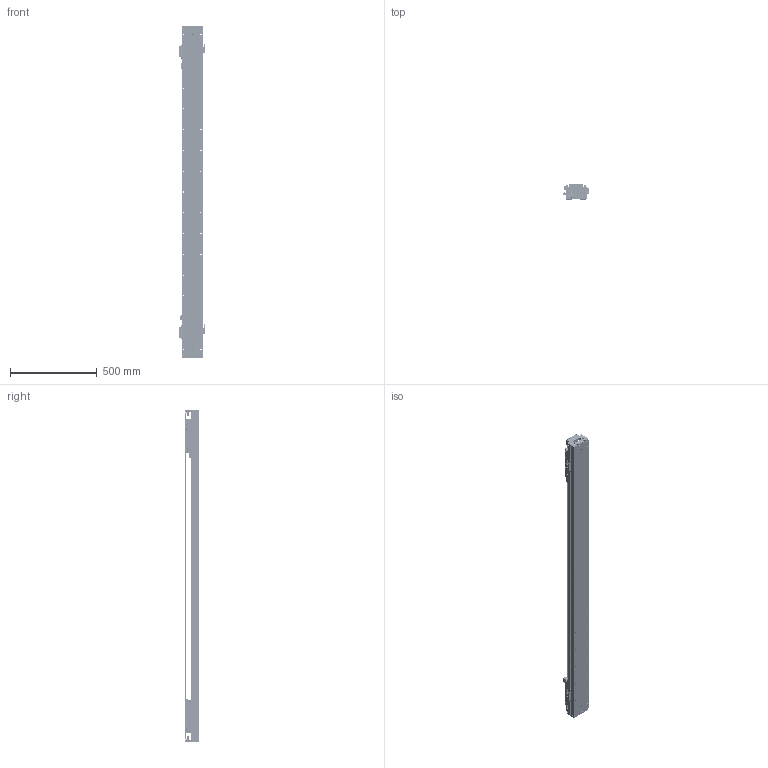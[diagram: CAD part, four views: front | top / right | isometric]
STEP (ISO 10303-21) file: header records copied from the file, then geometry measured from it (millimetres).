
FILE_DESCRIPTION (( 'STEP AP203' ), '1' );
FILE_NAME ('DKW120-2×B2-W060（T1400-L005-0.2）.STEP', '2021-09-24T00:51:54', ( '微软用户' ), ( '微软中国' ), 'SwSTEP 2.0', 'SolidWorks 2018', '' );
FILE_SCHEMA (( 'CONFIG_CONTROL_DESIGN' ));
Length unit declared in the file: millimetre
Products named in the file (24): DKW120-2×B2-W060（T1400-L005-0.2）; DKW-SG-GYP-H-00 嫖萇覜茼え; 12160-0000-003-00 DKW120詩湍嶺輸; B2-W060_00; 12160-0000-004-00  DKW120詩湍揤輸; DKW119-RU-DTJ-00 RU2黍杅芛盓殤; DKW120 单轴模组-拉钢带组件; MSB15-DG-U; B2-W060; BKMA01-W060-TRL280; 06652-0001-001-00 DKW120傷啣; DKW120-B15-T300-DZ-00 菁釱; EE_SX674A; RUS嫖掑喜; 06652-0001-004-00 DKW120嶺輸菜輸; DKW-DG-XJ-Z-00 笢潔滅袉砎蝶; Ru2; DKW-HXJ-JY-00 遣喳砎蝶; DKW-GYP-ZJ-00 笢潔嫖萇覜茼え; RUS嫖掑郪璃; 10940-0001-004-00 120詩湍裔啣; DKW-KGZ-ZJ-00 中间光电开关支架; 10980-0001-003-00 嫖萇羲壽嘐隅釱; 砎蝶猾沭
Assembly tree (41 placements, depth 3):
  DKW120-2×B2-W060（T1400-L005-0.2）
    DKW120-B15-T300-DZ-00 菁釱
    MSB15-DG-U  x2
    DKW120 单轴模组-拉钢带组件
      06652-0001-001-00 DKW120傷啣  x2
      06652-0001-004-00 DKW120嶺輸菜輸  x4
      DKW-HXJ-JY-00 遣喳砎蝶  x4
      10940-0001-004-00 120詩湍裔啣
      砎蝶猾沭  x2
      12160-0000-003-00 DKW120詩湍嶺輸  x2
      12160-0000-004-00  DKW120詩湍揤輸  x2
    BKMA01-W060-TRL280
    RUS嫖掑郪璃
      RUS嫖掑喜
      Ru2
    10980-0001-003-00 嫖萇羲壽嘐隅釱  x2
    B2-W060  x2
      DKW-SG-GYP-H-00 嫖萇覜茼え
      B2-W060_00
      DKW119-RU-DTJ-00 RU2黍杅芛盓殤
    EE_SX674A  x5
    Ru2
    DKW-DG-XJ-Z-00 笢潔滅袉砎蝶
    DKW-GYP-ZJ-00 笢潔嫖萇覜茼え
    DKW-KGZ-ZJ-00 中间光电开关支架
Bounding box: 154.1 x 84 x 1916 mm (x, y, z)
Volume: 7302565.3 mm3; surface area: 2809562.9 mm2
Topology: 60 solids, 158 shells, 6428 faces, 17410 edges, 11211 vertices
Faces by surface type: plane 3554, cylinder 1892, bspline 494, cone 488
Entity records: 139880 total; most frequent: CARTESIAN_POINT 48176, ORIENTED_EDGE 18921, DIRECTION 17612, EDGE_CURVE 9501, VERTEX_POINT 6233, AXIS2_PLACEMENT_3D 5884, LINE 5844, VECTOR 5844
